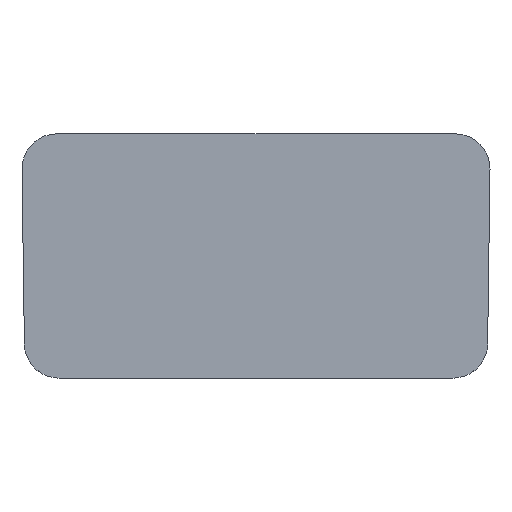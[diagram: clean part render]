
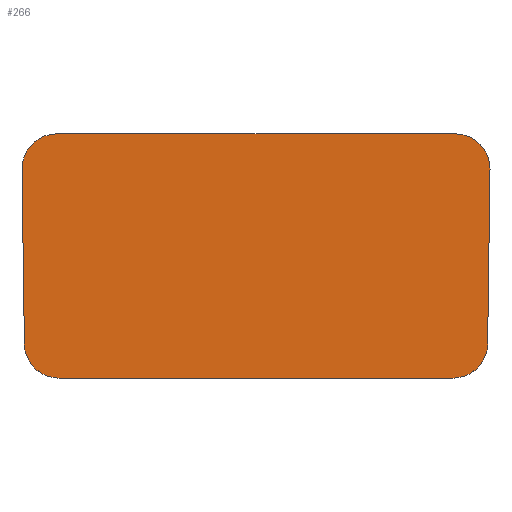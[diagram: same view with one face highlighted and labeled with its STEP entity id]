
A CAD part, top view. The second image highlights one B-rep face of the part: STEP entity #266.
In plain terms, the highlighted planar face has unit normal (0, 0, 1).
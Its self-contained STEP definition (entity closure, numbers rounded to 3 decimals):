
#1 = VERTEX_POINT ( 'NONE', #149 ) ;
#2 = EDGE_CURVE ( 'NONE', #377, #332, #241, .T. ) ;
#6 = VERTEX_POINT ( 'NONE', #151 ) ;
#10 = EDGE_LOOP ( 'NONE', ( #249, #313, #299, #239, #250, #260, #288, #147, #307 ) ) ;
#18 = CIRCLE ( 'NONE', #100, 11. ) ;
#19 = EDGE_CURVE ( 'NONE', #199, #1, #18, .T. ) ;
#23 = EDGE_CURVE ( 'NONE', #337, #6, #202, .T. ) ;
#28 = VECTOR ( 'NONE', #144, 1000. ) ;
#31 = EDGE_CURVE ( 'NONE', #332, #199, #201, .T. ) ;
#41 = EDGE_CURVE ( 'NONE', #103, #364, #371, .T. ) ;
#49 = AXIS2_PLACEMENT_3D ( 'NONE', #113, #114, #112 ) ;
#77 = EDGE_CURVE ( 'NONE', #364, #377, #336, .T. ) ;
#80 = AXIS2_PLACEMENT_3D ( 'NONE', #218, #220, #221 ) ;
#100 = AXIS2_PLACEMENT_3D ( 'NONE', #154, #157, #153 ) ;
#103 = VERTEX_POINT ( 'NONE', #207 ) ;
#109 = DIRECTION ( 'NONE',  ( 1., 0., 0. ) ) ;
#110 = CARTESIAN_POINT ( 'NONE',  ( -62.501, 0., 1.63 ) ) ;
#112 = DIRECTION ( 'NONE',  ( -1., 0., 0. ) ) ;
#113 = CARTESIAN_POINT ( 'NONE',  ( 62.501, 11., 1.63 ) ) ;
#114 = DIRECTION ( 'NONE',  ( 0., 0., 1. ) ) ;
#117 = CARTESIAN_POINT ( 'NONE',  ( 63.251, 77.5, 1.63 ) ) ;
#128 = AXIS2_PLACEMENT_3D ( 'NONE', #159, #160, #162 ) ;
#130 = CARTESIAN_POINT ( 'NONE',  ( 74.25, 66.351, 1.63 ) ) ;
#134 = CARTESIAN_POINT ( 'NONE',  ( -63.251, 77.5, 1.63 ) ) ;
#135 = CARTESIAN_POINT ( 'NONE',  ( -73.5, 10.851, 1.63 ) ) ;
#142 = CARTESIAN_POINT ( 'NONE',  ( -74.25, 66.351, 1.63 ) ) ;
#143 = DIRECTION ( 'NONE',  ( 0.014, -1., 0. ) ) ;
#144 = DIRECTION ( 'NONE',  ( -1., 0., 0. ) ) ;
#145 = CARTESIAN_POINT ( 'NONE',  ( -63.251, 77.5, 1.63 ) ) ;
#147 = ORIENTED_EDGE ( 'NONE', *, *, #19, .T. ) ;
#149 = CARTESIAN_POINT ( 'NONE',  ( -74.25, 66.351, 1.63 ) ) ;
#151 = CARTESIAN_POINT ( 'NONE',  ( -62.501, 0., 1.63 ) ) ;
#153 = DIRECTION ( 'NONE',  ( 1., 0., 0. ) ) ;
#154 = CARTESIAN_POINT ( 'NONE',  ( -63.251, 66.5, 1.63 ) ) ;
#157 = DIRECTION ( 'NONE',  ( 0., 0., 1. ) ) ;
#159 = CARTESIAN_POINT ( 'NONE',  ( -62.501, 11., 1.63 ) ) ;
#160 = DIRECTION ( 'NONE',  ( 0., 0., 1. ) ) ;
#161 = CARTESIAN_POINT ( 'NONE',  ( -63.251, 66.5, 1.63 ) ) ;
#162 = DIRECTION ( 'NONE',  ( -1., 0., 0. ) ) ;
#163 = DIRECTION ( 'NONE',  ( 0., 0., 1. ) ) ;
#164 = DIRECTION ( 'NONE',  ( 1., 0., 0. ) ) ;
#165 = DIRECTION ( 'NONE',  ( 0.014, 1., 0. ) ) ;
#168 = CARTESIAN_POINT ( 'NONE',  ( 74.25, 66.351, 1.63 ) ) ;
#199 = VERTEX_POINT ( 'NONE', #217 ) ;
#201 = CIRCLE ( 'NONE', #358, 11. ) ;
#202 = CIRCLE ( 'NONE', #128, 11. ) ;
#207 = CARTESIAN_POINT ( 'NONE',  ( 73.5, 10.851, 1.63 ) ) ;
#213 = CARTESIAN_POINT ( 'NONE',  ( -62.501, 11., 1.63 ) ) ;
#217 = CARTESIAN_POINT ( 'NONE',  ( -74.251, 66.5, 1.63 ) ) ;
#218 = CARTESIAN_POINT ( 'NONE',  ( 63.251, 66.5, 1.63 ) ) ;
#219 = AXIS2_PLACEMENT_3D ( 'NONE', #213, #230, #224 ) ;
#220 = DIRECTION ( 'NONE',  ( 0., 0., 1. ) ) ;
#221 = DIRECTION ( 'NONE',  ( 1., 0., 0. ) ) ;
#223 = PLANE ( 'NONE',  #219 ) ;
#224 = DIRECTION ( 'NONE',  ( -1., 0., 0. ) ) ;
#230 = DIRECTION ( 'NONE',  ( 0., 0., -1. ) ) ;
#232 = VECTOR ( 'NONE', #109, 1000. ) ;
#239 = ORIENTED_EDGE ( 'NONE', *, *, #41, .T. ) ;
#241 = LINE ( 'NONE', #145, #28 ) ;
#249 = ORIENTED_EDGE ( 'NONE', *, *, #23, .T. ) ;
#250 = ORIENTED_EDGE ( 'NONE', *, *, #77, .T. ) ;
#252 = LINE ( 'NONE', #110, #232 ) ;
#255 = CIRCLE ( 'NONE', #49, 11. ) ;
#260 = ORIENTED_EDGE ( 'NONE', *, *, #2, .T. ) ;
#266 = ADVANCED_FACE ( 'NONE', ( #329 ), #223, .F. ) ;
#286 = CARTESIAN_POINT ( 'NONE',  ( 62.501, 0., 1.63 ) ) ;
#288 = ORIENTED_EDGE ( 'NONE', *, *, #31, .T. ) ;
#290 = LINE ( 'NONE', #142, #304 ) ;
#299 = ORIENTED_EDGE ( 'NONE', *, *, #357, .T. ) ;
#304 = VECTOR ( 'NONE', #143, 1000. ) ;
#306 = EDGE_CURVE ( 'NONE', #1, #337, #290, .T. ) ;
#307 = ORIENTED_EDGE ( 'NONE', *, *, #306, .T. ) ;
#313 = ORIENTED_EDGE ( 'NONE', *, *, #375, .T. ) ;
#329 = FACE_OUTER_BOUND ( 'NONE', #10, .T. ) ;
#332 = VERTEX_POINT ( 'NONE', #134 ) ;
#336 = CIRCLE ( 'NONE', #80, 11. ) ;
#337 = VERTEX_POINT ( 'NONE', #135 ) ;
#343 = VERTEX_POINT ( 'NONE', #286 ) ;
#357 = EDGE_CURVE ( 'NONE', #343, #103, #255, .T. ) ;
#358 = AXIS2_PLACEMENT_3D ( 'NONE', #161, #163, #164 ) ;
#364 = VERTEX_POINT ( 'NONE', #130 ) ;
#365 = VECTOR ( 'NONE', #165, 1000. ) ;
#371 = LINE ( 'NONE', #168, #365 ) ;
#375 = EDGE_CURVE ( 'NONE', #6, #343, #252, .T. ) ;
#377 = VERTEX_POINT ( 'NONE', #117 ) ;
